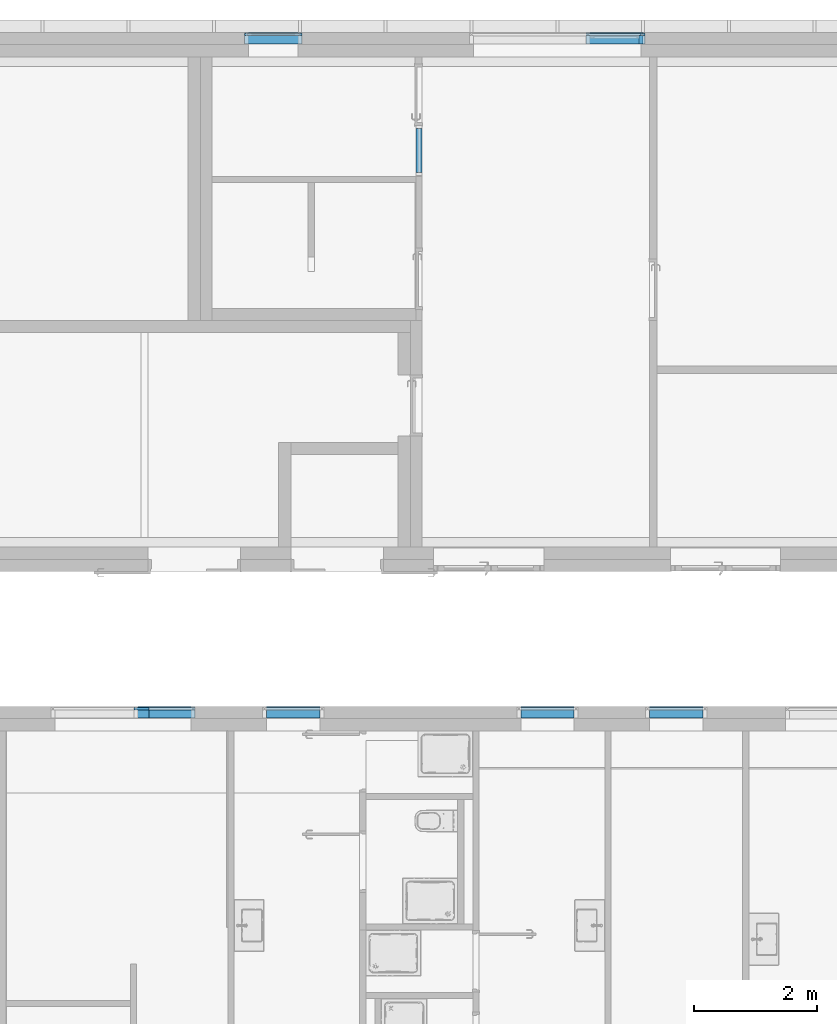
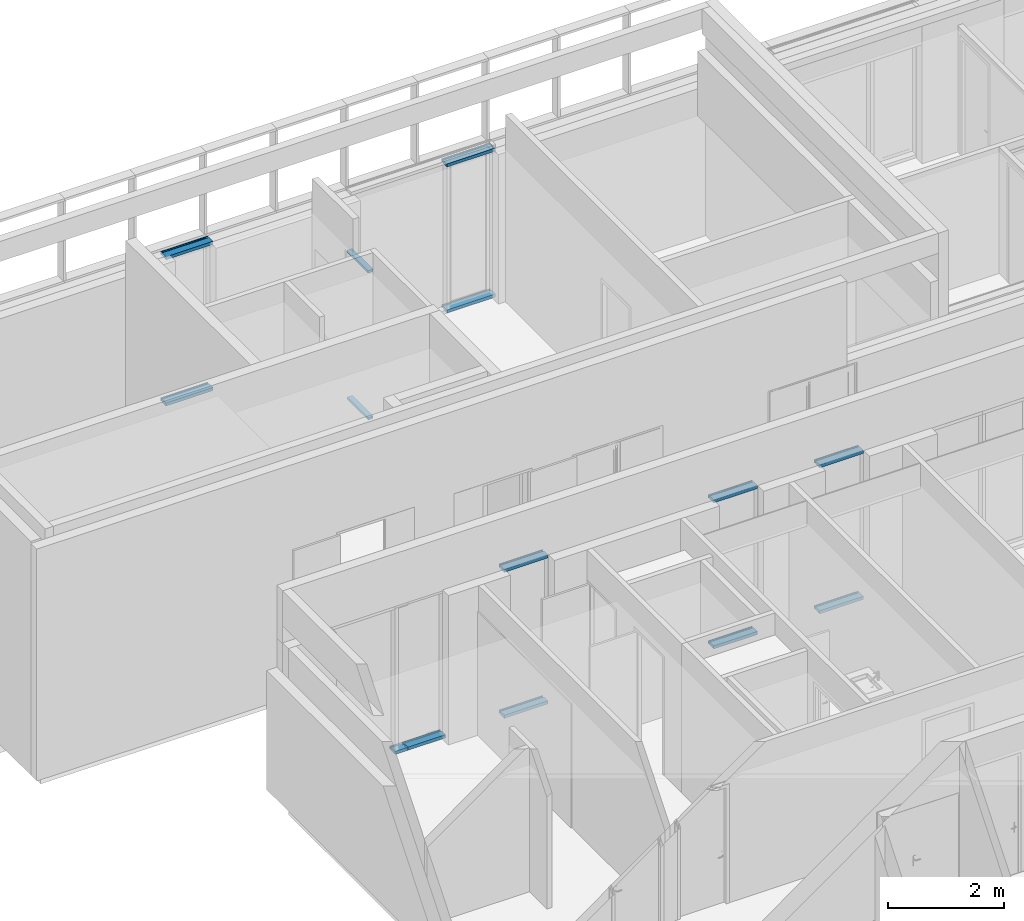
# One storey, part 38 of 240: 16 members, 7 elements without a shape of their own.
"""IFC2X3 building model written with IfcOpenShell, lengths in centimetres."""

from ifc_helpers import new_model, entity, si_unit, converted_unit, derived_unit, direction, frame, origin, origin_2d_with_axis, place, context, subcontext, project, spatial, polyline, rectangle, outline, extrude, source, transform, mapped, material, type_object, type_shapes, element, aggregate, save


model = new_model("IFC2X3")

# Units and contexts
model_context = context("Model", 3, precision=0.001, world=origin(), true_north=direction((6.12303176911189e-17, 1.0)))
body_context = subcontext(model_context, "Body", "Model", "MODEL_VIEW")
ifc_project = project(units=[si_unit("LENGTHUNIT", "METRE", prefix="CENTI"), si_unit("AREAUNIT", "SQUARE_METRE"), si_unit("VOLUMEUNIT", "CUBIC_METRE"), converted_unit("PLANEANGLEUNIT", "DEGREE", entity("IfcRatioMeasure", 0.0174532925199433), si_unit("PLANEANGLEUNIT", "RADIAN"), dimensions=[0, 0, 0, 0, 0, 0, 0]), si_unit("MASSUNIT", "GRAM", prefix="KILO"), derived_unit("MASSDENSITYUNIT", [(si_unit("MASSUNIT", "GRAM", prefix="KILO"), 1), (si_unit("LENGTHUNIT", "METRE"), -3)]), si_unit("TIMEUNIT", "SECOND"), si_unit("FREQUENCYUNIT", "HERTZ"), si_unit("THERMODYNAMICTEMPERATUREUNIT", "DEGREE_CELSIUS"), derived_unit("THERMALTRANSMITTANCEUNIT", [(si_unit("MASSUNIT", "GRAM", prefix="KILO"), 1), (si_unit("THERMODYNAMICTEMPERATUREUNIT", "KELVIN"), -1), (si_unit("TIMEUNIT", "SECOND"), -3)]), derived_unit("VOLUMETRICFLOWRATEUNIT", [(si_unit("LENGTHUNIT", "METRE"), 3), (si_unit("TIMEUNIT", "SECOND"), -1)]), si_unit("ELECTRICCURRENTUNIT", "AMPERE"), si_unit("ELECTRICVOLTAGEUNIT", "VOLT"), si_unit("POWERUNIT", "WATT"), si_unit("FORCEUNIT", "NEWTON", prefix="KILO"), si_unit("ILLUMINANCEUNIT", "LUX"), si_unit("LUMINOUSFLUXUNIT", "LUMEN"), si_unit("LUMINOUSINTENSITYUNIT", "CANDELA"), derived_unit("USERDEFINED", [(si_unit("MASSUNIT", "GRAM", prefix="KILO"), -1), (si_unit("LENGTHUNIT", "METRE"), -2), (si_unit("TIMEUNIT", "SECOND"), 3), (si_unit("LUMINOUSFLUXUNIT", "LUMEN"), 1)]), derived_unit("LINEARVELOCITYUNIT", [(si_unit("LENGTHUNIT", "METRE"), 1), (si_unit("TIMEUNIT", "SECOND"), -1)]), si_unit("PRESSUREUNIT", "PASCAL"), derived_unit("USERDEFINED", [(si_unit("LENGTHUNIT", "METRE"), -2), (si_unit("MASSUNIT", "GRAM", prefix="KILO"), 1), (si_unit("TIMEUNIT", "SECOND"), -2)])], contexts=[model_context])

# Site, building, storey
site_placement = place(None, frame((-2781.94577612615, 7442.24238424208, 0.0)))
site = spatial("IfcSite", under=ifc_project, at=site_placement, Name="Default", CompositionType="ELEMENT")
building_placement = place(site_placement, origin())
building = spatial("IfcBuilding", under=site, at=building_placement, CompositionType="ELEMENT")
storey_placement = place(building_placement, origin())
storey = spatial("IfcBuildingStorey", under=building, at=storey_placement, Name="N00 - COO", CompositionType="ELEMENT", Elevation=0.0)

# Curtain wall, members
curtain_wall_type_1 = type_object("IfcCurtainWallType", Name="Mur-rideau:07 - mur rideau trame 280 cm RDC maintenance", PredefinedType="NOTDEFINED")
curtain_wall_1_placement = place(building_placement, origin())
curtain_wall_1 = element("IfcCurtainWall", 1, at=curtain_wall_1_placement, inside=storey, type_object=curtain_wall_type_1, Name="Mur-rideau:07 - mur rideau trame 280 cm RDC maintenance", ObjectType="Mur-rideau:07 - mur rideau trame 280 cm RDC maintenance")
ifc_material_1 = material(Name="Aluminium")
member_type_1 = type_object("IfcMemberType", Name="150 x 25mm Détails", PredefinedType="MEMBER")
shared_shape_1 = source(origin(), body_context, "Body", "SweptSolid", [
    extrude(outline(polyline([(-13.3333333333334, -3.25000000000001), (0.166666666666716, -3.25000000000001), (0.166666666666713, -0.86874999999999), (3.66666666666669, -0.86874999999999), (3.66666666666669, -3.24999999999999), (5.66666666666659, -3.24999999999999), (5.66666666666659, 3.25), (3.66666666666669, 3.25), (3.66666666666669, 0.868749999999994), (0.166666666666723, 0.868749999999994), (0.166666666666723, 3.25000000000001), (-13.3333333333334, 3.24999999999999), (-13.3333333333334, -3.25000000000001)])), frame((-3.24999999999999, 1.96666666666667, -96.5000000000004), z_axis=(0.0, 0.0, 1.0), x_axis=(0.0, -1.0, 0.0)), (0.0, 0.0, 1.0), 96.5),
])
type_shapes(member_type_1, [shared_shape_1])
member_1_placement = place(building_placement, frame((-9823.74987766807, 26.2000000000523, 6.5), z_axis=(1.0, 0.0, 0.0), x_axis=(0.0, 0.0, 1.0)))
member_1 = element("IfcMember", 2, at=member_1_placement, type_object=member_type_1, material=ifc_material_1, Name="Meneau rectangulaire:150 x 25mm Détails", ObjectType="Meneau rectangulaire:150 x 25mm Détails", context=body_context, shape_type="MappedRepresentation", body=[
    mapped(shared_shape_1, transform((0.0, 0.0, 0.0), scale=1.0)),
])
member_type_2 = type_object("IfcMemberType", Name="150 x 25mm Détails", PredefinedType="MEMBER")
shared_shape_2 = source(origin(), body_context, "Body", "SweptSolid", [
    extrude(outline(polyline([(-13.3333333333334, -3.24999999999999), (0.166666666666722, -3.24999999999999), (0.166666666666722, -0.868749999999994), (3.66666666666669, -0.868749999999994), (3.66666666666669, -3.25), (5.66666666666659, -3.25), (5.66666666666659, 3.24999999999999), (3.66666666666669, 3.24999999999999), (3.66666666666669, 0.86874999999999), (0.166666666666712, 0.86874999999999), (0.166666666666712, 3.25000000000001), (-13.3333333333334, 3.25000000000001), (-13.3333333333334, -3.24999999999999)])), frame((-3.24999999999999, 1.96666666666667, -96.5000000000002), z_axis=(0.0, 0.0, 1.0), x_axis=(0.0, -1.0, 0.0)), (0.0, 0.0, 1.0), 96.5),
])
type_shapes(member_type_2, [shared_shape_2])
member_2_placement = place(building_placement, frame((-9920.24987766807, 26.2000000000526, 306.0), z_axis=(-1.0, 0.0, 0.0), x_axis=(0.0, 0.0, -1.0)))
member_2 = element("IfcMember", 3, at=member_2_placement, type_object=member_type_2, material=ifc_material_1, Name="Meneau rectangulaire:150 x 25mm Détails", ObjectType="Meneau rectangulaire:150 x 25mm Détails", context=body_context, shape_type="MappedRepresentation", body=[
    mapped(shared_shape_2, transform((0.0, 0.0, 0.0), scale=1.0)),
])

curtain_wall_type_2 = type_object("IfcCurtainWallType", Name="Mur-rideau:07 - mur rideau trame 90 cm", PredefinedType="NOTDEFINED")
curtain_wall_2_placement = place(storey_placement, origin())
curtain_wall_2 = element("IfcCurtainWall", 4, at=curtain_wall_2_placement, inside=storey, type_object=curtain_wall_type_2, Name="Mur-rideau:07 - mur rideau trame 90 cm", ObjectType="Mur-rideau:07 - mur rideau trame 90 cm")
member_type_3 = type_object("IfcMemberType", Name="150 x 25mm Détails", PredefinedType="MEMBER")
shared_shape_3 = source(origin(), body_context, "Body", "SweptSolid", [
    extrude(outline(polyline([(-13.3333333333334, -3.24999999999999), (0.166666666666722, -3.24999999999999), (0.166666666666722, -0.868749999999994), (3.66666666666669, -0.868749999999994), (3.66666666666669, -3.25), (5.66666666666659, -3.25), (5.66666666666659, 3.24999999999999), (3.66666666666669, 3.24999999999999), (3.66666666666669, 0.86874999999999), (0.166666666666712, 0.86874999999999), (0.166666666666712, 3.25000000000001), (-13.3333333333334, 3.25000000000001), (-13.3333333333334, -3.24999999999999)])), frame((-3.24999999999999, 1.96666666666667, -93.25000003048), z_axis=(0.0, 0.0, 1.0), x_axis=(0.0, -1.0, 0.0)), (0.0, 0.0, 1.0), 93.25000003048),
])
type_shapes(member_type_3, [shared_shape_3])
member_3_placement = place(storey_placement, frame((-10476.9998776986, 26.2000000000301, 0.0), z_axis=(-1.0, 0.0, 0.0), x_axis=(0.0, 0.0, -1.0)))
member_3 = element("IfcMember", 5, at=member_3_placement, type_object=member_type_3, material=ifc_material_1, Name="Meneau rectangulaire:150 x 25mm Détails", ObjectType="Meneau rectangulaire:150 x 25mm Détails", context=body_context, shape_type="MappedRepresentation", body=[
    mapped(shared_shape_3, transform((0.0, 0.0, 0.0), scale=1.0)),
])
member_type_4 = type_object("IfcMemberType", Name="150 x 25mm Détails", PredefinedType="MEMBER")
shared_shape_4 = source(origin(), body_context, "Body", "SweptSolid", [
    extrude(outline(polyline([(-13.3333333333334, -3.25000000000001), (0.166666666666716, -3.25000000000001), (0.166666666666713, -0.86874999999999), (3.66666666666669, -0.86874999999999), (3.66666666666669, -3.24999999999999), (5.66666666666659, -3.24999999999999), (5.66666666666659, 3.25), (3.66666666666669, 3.25), (3.66666666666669, 0.868749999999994), (0.166666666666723, 0.868749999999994), (0.166666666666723, 3.25000000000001), (-13.3333333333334, 3.24999999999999), (-13.3333333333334, -3.25000000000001)])), frame((-3.24999999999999, 1.96666666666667, -93.2500000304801), z_axis=(0.0, 0.0, 1.0), x_axis=(0.0, -1.0, 0.0)), (0.0, 0.0, 1.0), 93.25000003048),
])
type_shapes(member_type_4, [shared_shape_4])
member_4_placement = place(storey_placement, frame((-10383.7498776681, 26.2000000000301, 313.0), z_axis=(1.0, 0.0, 0.0), x_axis=(0.0, 0.0, 1.0)))
member_4 = element("IfcMember", 6, at=member_4_placement, type_object=member_type_4, material=ifc_material_1, Name="Meneau rectangulaire:150 x 25mm Détails", ObjectType="Meneau rectangulaire:150 x 25mm Détails", context=body_context, shape_type="MappedRepresentation", body=[
    mapped(shared_shape_4, transform((0.0, 0.0, 0.0), scale=1.0)),
])
aggregate(curtain_wall_2, [member_3, member_4])

# Member
member_type_5 = type_object("IfcMemberType", Name="150 x 25mm Détails", PredefinedType="MEMBER")
shared_shape_5 = source(origin(), body_context, "Body", "SweptSolid", [
    extrude(outline(polyline([(-13.3333333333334, -3.24999999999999), (0.166666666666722, -3.24999999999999), (0.166666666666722, -0.868749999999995), (3.66666666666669, -0.868749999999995), (3.66666666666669, -3.25), (5.66666666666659, -3.25), (5.66666666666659, 3.24999999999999), (3.66666666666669, 3.24999999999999), (3.66666666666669, 0.86874999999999), (0.166666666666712, 0.86874999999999), (0.166666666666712, 3.25000000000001), (-13.3333333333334, 3.25000000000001), (-13.3333333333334, -3.24999999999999)])), frame((0.0, 1.96666666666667, -0.614556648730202), z_axis=(0.0, 0.0, 1.0), x_axis=(0.0, -1.0, 0.0)), (0.0, 0.0, 1.0), 0.614556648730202),
])
type_shapes(member_type_5, [shared_shape_5])
member_5_placement = place(building_placement, frame((-9830.24987765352, 26.2000000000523, 312.5), z_axis=(0.0, 0.0, -1.0), x_axis=(1.0, 0.0, 0.0)))
member_5 = element("IfcMember", 7, at=member_5_placement, type_object=member_type_5, material=ifc_material_1, Name="Meneau rectangulaire:150 x 25mm Détails", ObjectType="Meneau rectangulaire:150 x 25mm Détails", context=body_context, shape_type="MappedRepresentation", body=[
    mapped(shared_shape_5, transform((0.0, 0.0, 0.0), scale=1.0)),
])

aggregate(curtain_wall_1, [member_1, member_2, member_5])

# Curtain wall, members
curtain_wall_type_3 = type_object("IfcCurtainWallType", Name="Mur-rideau:07 - mur rideau trame 160cm", PredefinedType="NOTDEFINED")
curtain_wall_3_placement = place(building_placement, origin())
curtain_wall_3 = element("IfcCurtainWall", 8, at=curtain_wall_3_placement, inside=storey, type_object=curtain_wall_type_3, Name="Mur-rideau:07 - mur rideau trame 160cm", ObjectType="Mur-rideau:07 - mur rideau trame 160cm")
member_type_6 = type_object("IfcMemberType", Name="150 x 25mm Détails", PredefinedType="MEMBER")
shared_shape_6 = source(origin(), body_context, "Body", "SweptSolid", [
    extrude(outline(polyline([(-13.3333333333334, -3.24999999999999), (0.166666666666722, -3.24999999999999), (0.166666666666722, -0.868749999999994), (3.66666666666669, -0.868749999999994), (3.66666666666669, -3.25), (5.66666666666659, -3.25), (5.66666666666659, 3.24999999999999), (3.66666666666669, 3.24999999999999), (3.66666666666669, 0.86874999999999), (0.166666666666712, 0.86874999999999), (0.166666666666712, 3.25000000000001), (-13.3333333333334, 3.25000000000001), (-13.3333333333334, -3.24999999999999)])), frame((-3.24999999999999, 1.96666666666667, -75.0), z_axis=(0.0, 0.0, 1.0), x_axis=(0.0, -1.0, 0.0)), (0.0, 0.0, 1.0), 74.9999999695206),
])
type_shapes(member_type_6, [shared_shape_6])
member_6_placement = place(building_placement, frame((-10632.8811276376, -1073.69999990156, 0.0), z_axis=(-1.0, 0.0, 0.0), x_axis=(0.0, 0.0, -1.0)))
member_6 = element("IfcMember", 9, at=member_6_placement, type_object=member_type_6, material=ifc_material_1, Name="Meneau rectangulaire:150 x 25mm Détails", ObjectType="Meneau rectangulaire:150 x 25mm Détails", context=body_context, shape_type="MappedRepresentation", body=[
    mapped(shared_shape_6, transform((0.0, 0.0, 0.0), scale=1.0)),
])
member_type_7 = type_object("IfcMemberType", Name="150 x 25mm Détails", PredefinedType="MEMBER")
shared_shape_7 = source(origin(), body_context, "Body", "SweptSolid", [
    extrude(outline(polyline([(-13.3333333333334, -3.25000000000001), (0.166666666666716, -3.25000000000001), (0.166666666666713, -0.86874999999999), (3.66666666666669, -0.86874999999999), (3.66666666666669, -3.24999999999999), (5.66666666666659, -3.24999999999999), (5.66666666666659, 3.25), (3.66666666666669, 3.25), (3.66666666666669, 0.868749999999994), (0.166666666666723, 0.868749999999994), (0.166666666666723, 3.25000000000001), (-13.3333333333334, 3.24999999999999), (-13.3333333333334, -3.25000000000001)])), frame((-3.24999999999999, 1.96666666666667, -74.8812499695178), z_axis=(0.0, 0.0, 1.0), x_axis=(0.0, -1.0, 0.0)), (0.0, 0.0, 1.0), 74.8812499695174),
])
type_shapes(member_type_7, [shared_shape_7])
member_7_placement = place(building_placement, frame((-10557.9998776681, -1073.69999990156, 6.5), z_axis=(1.0, 0.0, 0.0), x_axis=(0.0, 0.0, 1.0)))
member_7 = element("IfcMember", 10, at=member_7_placement, type_object=member_type_7, material=ifc_material_1, Name="Meneau rectangulaire:150 x 25mm Détails", ObjectType="Meneau rectangulaire:150 x 25mm Détails", context=body_context, shape_type="MappedRepresentation", body=[
    mapped(shared_shape_7, transform((0.0, 0.0, 0.0), scale=1.0)),
])
member_type_8 = type_object("IfcMemberType", Name="150 x 25mm Détails", PredefinedType="MEMBER")
shared_shape_8 = source(origin(), body_context, "Body", "SweptSolid", [
    extrude(outline(polyline([(-13.3333333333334, -3.25000000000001), (0.166666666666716, -3.25000000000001), (0.166666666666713, -0.86874999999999), (3.66666666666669, -0.86874999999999), (3.66666666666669, -3.24999999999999), (5.66666666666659, -3.24999999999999), (5.66666666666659, 3.25), (3.66666666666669, 3.25), (3.66666666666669, 0.868749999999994), (0.166666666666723, 0.868749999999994), (0.166666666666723, 3.25000000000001), (-13.3333333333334, 3.24999999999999), (-13.3333333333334, -3.25000000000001)])), frame((-3.24999999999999, 1.96666666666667, -25.1187500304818), z_axis=(0.0, 0.0, 1.0), x_axis=(0.0, -1.0, 0.0)), (0.0, 0.0, 1.0), 25.1187500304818),
])
type_shapes(member_type_8, [shared_shape_8])
member_8_placement = place(building_placement, frame((-10632.8811276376, -1073.69999990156, 6.5), z_axis=(1.0, 0.0, 0.0), x_axis=(0.0, 0.0, 1.0)))
member_8 = element("IfcMember", 11, at=member_8_placement, type_object=member_type_8, material=ifc_material_1, Name="Meneau rectangulaire:150 x 25mm Détails", ObjectType="Meneau rectangulaire:150 x 25mm Détails", context=body_context, shape_type="MappedRepresentation", body=[
    mapped(shared_shape_8, transform((0.0, 0.0, 0.0), scale=1.0)),
])
aggregate(curtain_wall_3, [member_6, member_7, member_8])

# Curtain wall, member
curtain_wall_type_4 = type_object("IfcCurtainWallType", Name="Mur-rideau:07 - mur rideau trame 100cm", PredefinedType="NOTDEFINED")
curtain_wall_4_placement = place(storey_placement, origin())
curtain_wall_4 = element("IfcCurtainWall", 12, at=curtain_wall_4_placement, inside=storey, type_object=curtain_wall_type_4, Name="Mur-rideau:07 - mur rideau trame 100cm", ObjectType="Mur-rideau:07 - mur rideau trame 100cm")
member_type_9 = type_object("IfcMemberType", Name="150 x 25mm Détails", PredefinedType="MEMBER")
shared_shape_9 = source(origin(), body_context, "Body", "SweptSolid", [
    extrude(outline(polyline([(-13.3333333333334, -3.24999999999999), (0.166666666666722, -3.24999999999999), (0.166666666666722, -0.868749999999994), (3.66666666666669, -0.868749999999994), (3.66666666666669, -3.25), (5.66666666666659, -3.25), (5.66666666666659, 3.24999999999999), (3.66666666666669, 3.24999999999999), (3.66666666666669, 0.86874999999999), (0.166666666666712, 0.86874999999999), (0.166666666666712, 3.25000000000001), (-13.3333333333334, 3.25000000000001), (-13.3333333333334, -3.24999999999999)])), frame((-3.24999999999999, 1.96666666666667, -87.0), z_axis=(0.0, 0.0, 1.0), x_axis=(0.0, -1.0, 0.0)), (0.0, 0.0, 1.0), 86.9999999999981),
])
type_shapes(member_type_9, [shared_shape_9])
member_9_placement = place(storey_placement, frame((-9816.49987766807, -1073.69999990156, 0.0), z_axis=(-1.0, 0.0, 0.0), x_axis=(0.0, 0.0, -1.0)))
member_9 = element("IfcMember", 13, at=member_9_placement, type_object=member_type_9, material=ifc_material_1, Name="Meneau rectangulaire:150 x 25mm Détails", ObjectType="Meneau rectangulaire:150 x 25mm Détails", context=body_context, shape_type="MappedRepresentation", body=[
    mapped(shared_shape_9, transform((0.0, 0.0, 0.0), scale=1.0)),
])

curtain_wall_5_placement = place(storey_placement, origin())
curtain_wall_5 = element("IfcCurtainWall", 14, at=curtain_wall_5_placement, inside=storey, type_object=curtain_wall_type_4, Name="Mur-rideau:07 - mur rideau trame 100cm", ObjectType="Mur-rideau:07 - mur rideau trame 100cm")
member_10_placement = place(storey_placement, frame((-10026.4998776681, -1073.69999990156, 0.0), z_axis=(-1.0, 0.0, 0.0), x_axis=(0.0, 0.0, -1.0)))
member_10 = element("IfcMember", 15, at=member_10_placement, type_object=member_type_9, material=ifc_material_1, Name="Meneau rectangulaire:150 x 25mm Détails", ObjectType="Meneau rectangulaire:150 x 25mm Détails", context=body_context, shape_type="MappedRepresentation", body=[
    mapped(shared_shape_9, transform((0.0, 0.0, 0.0), scale=1.0)),
])

curtain_wall_6_placement = place(storey_placement, origin())
curtain_wall_6 = element("IfcCurtainWall", 16, at=curtain_wall_6_placement, inside=storey, type_object=curtain_wall_type_4, Name="Mur-rideau:07 - mur rideau trame 100cm", ObjectType="Mur-rideau:07 - mur rideau trame 100cm")
member_11_placement = place(storey_placement, frame((-10441.4998776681, -1073.69999990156, 0.0), z_axis=(-1.0, 0.0, 0.0), x_axis=(0.0, 0.0, -1.0)))
member_11 = element("IfcMember", 17, at=member_11_placement, type_object=member_type_9, material=ifc_material_1, Name="Meneau rectangulaire:150 x 25mm Détails", ObjectType="Meneau rectangulaire:150 x 25mm Détails", context=body_context, shape_type="MappedRepresentation", body=[
    mapped(shared_shape_9, transform((0.0, 0.0, 0.0), scale=1.0)),
])

# Curtain wall, members
curtain_wall_type_5 = type_object("IfcCurtainWallType", Name="Mur-rideau:07 - mur rideau vitrage sans recoupement 10cm", PredefinedType="NOTDEFINED")
curtain_wall_7_placement = place(building_placement, origin())
curtain_wall_7 = element("IfcCurtainWall", 18, at=curtain_wall_7_placement, inside=storey, type_object=curtain_wall_type_5, Name="Mur-rideau:07 - mur rideau vitrage sans recoupement 10cm", ObjectType="Mur-rideau:07 - mur rideau vitrage sans recoupement 10cm")
ifc_material_2 = material(Name="Plastique, blanc opaque")
member_type_10 = type_object("IfcMemberType", Name="100 x 50mm", PredefinedType="MEMBER")
shared_shape_10 = source(origin(), body_context, "Body", "SweptSolid", [
    extrude(rectangle(XDim=10.0, YDim=5.0, at=origin_2d_with_axis()), frame((-2.5, 0.0, -72.0), z_axis=(0.0, 0.0, 1.0), x_axis=(0.0, -1.0, 0.0)), (0.0, 0.0, 1.0), 71.9999999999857),
])
type_shapes(member_type_10, [shared_shape_10])
member_12_placement = place(building_placement, frame((-10192.4998776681, -199.0, 313.0), z_axis=(0.0, -1.0, 0.0), x_axis=(0.0, 0.0, 1.0)))
member_12 = element("IfcMember", 19, at=member_12_placement, type_object=member_type_10, material=ifc_material_2, Name="Meneau rectangulaire:100 x 50mm", ObjectType="Meneau rectangulaire:100 x 50mm", context=body_context, shape_type="MappedRepresentation", body=[
    mapped(shared_shape_10, transform((0.0, 0.0, 0.0), scale=1.0)),
])
member_type_11 = type_object("IfcMemberType", Name="100 x 50mm", PredefinedType="MEMBER")
shared_shape_11 = source(origin(), body_context, "Body", "SweptSolid", [
    extrude(rectangle(XDim=10.0, YDim=5.0, at=origin_2d_with_axis()), frame((-2.5, 0.0, -72.0), z_axis=(0.0, 0.0, 1.0), x_axis=(0.0, -1.0, 0.0)), (0.0, 0.0, 1.0), 71.9999999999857),
])
type_shapes(member_type_11, [shared_shape_11])
member_13_placement = place(building_placement, frame((-10192.4998776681, -127.0, 0.0), z_axis=(0.0, 1.0, 0.0), x_axis=(0.0, 0.0, -1.0)))
member_13 = element("IfcMember", 20, at=member_13_placement, type_object=member_type_11, material=ifc_material_2, Name="Meneau rectangulaire:100 x 50mm", ObjectType="Meneau rectangulaire:100 x 50mm", context=body_context, shape_type="MappedRepresentation", body=[
    mapped(shared_shape_11, transform((0.0, 0.0, 0.0), scale=1.0)),
])
aggregate(curtain_wall_7, [member_12, member_13])

# Member
member_type_12 = type_object("IfcMemberType", Name="150 x 25mm Détails", PredefinedType="MEMBER")
shared_shape_12 = source(origin(), body_context, "Body", "SweptSolid", [
    extrude(outline(polyline([(-13.3333333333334, -3.24999999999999), (0.166666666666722, -3.24999999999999), (0.166666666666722, -0.868749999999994), (3.66666666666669, -0.868749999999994), (3.66666666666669, -3.25), (5.66666666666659, -3.25), (5.66666666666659, 3.24999999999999), (3.66666666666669, 3.24999999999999), (3.66666666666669, 0.86874999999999), (0.166666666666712, 0.86874999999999), (0.166666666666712, 3.25000000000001), (-13.3333333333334, 3.25000000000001), (-13.3333333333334, -3.24999999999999)])), frame((-3.24999999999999, 1.96666666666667, -87.0), z_axis=(0.0, 0.0, 1.0), x_axis=(0.0, -1.0, 0.0)), (0.0, 0.0, 1.0), 86.9999999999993),
])
type_shapes(member_type_12, [shared_shape_12])
member_14_placement = place(storey_placement, frame((-9816.49987766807, -1073.69999990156, 306.0), z_axis=(-1.0, 0.0, 0.0), x_axis=(0.0, 0.0, -1.0)))
member_14 = element("IfcMember", 21, at=member_14_placement, type_object=member_type_12, material=ifc_material_1, Name="Meneau rectangulaire:150 x 25mm Détails", ObjectType="Meneau rectangulaire:150 x 25mm Détails", context=body_context, shape_type="MappedRepresentation", body=[
    mapped(shared_shape_12, transform((0.0, 0.0, 0.0), scale=1.0)),
])

aggregate(curtain_wall_4, [member_9, member_14])

member_15_placement = place(storey_placement, frame((-10026.4998776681, -1073.69999990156, 306.0), z_axis=(-1.0, 0.0, 0.0), x_axis=(0.0, 0.0, -1.0)))
member_15 = element("IfcMember", 22, at=member_15_placement, type_object=member_type_12, material=ifc_material_1, Name="Meneau rectangulaire:150 x 25mm Détails", ObjectType="Meneau rectangulaire:150 x 25mm Détails", context=body_context, shape_type="MappedRepresentation", body=[
    mapped(shared_shape_12, transform((0.0, 0.0, 0.0), scale=1.0)),
])

aggregate(curtain_wall_5, [member_10, member_15])

member_16_placement = place(storey_placement, frame((-10441.4998776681, -1073.69999990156, 306.0), z_axis=(-1.0, 0.0, 0.0), x_axis=(0.0, 0.0, -1.0)))
member_16 = element("IfcMember", 23, at=member_16_placement, type_object=member_type_12, material=ifc_material_1, Name="Meneau rectangulaire:150 x 25mm Détails", ObjectType="Meneau rectangulaire:150 x 25mm Détails", context=body_context, shape_type="MappedRepresentation", body=[
    mapped(shared_shape_12, transform((0.0, 0.0, 0.0), scale=1.0)),
])

aggregate(curtain_wall_6, [member_11, member_16])

save(model, "model.ifc")
